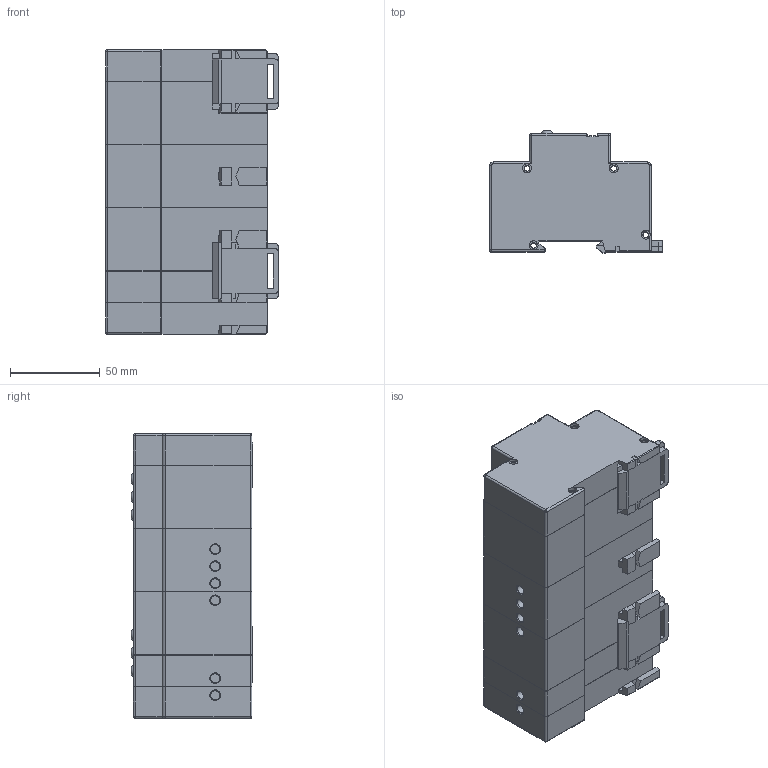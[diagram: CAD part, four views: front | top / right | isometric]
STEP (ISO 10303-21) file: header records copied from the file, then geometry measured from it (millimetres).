
FILE_DESCRIPTION(/* description */ (''),/* implementation_level */ '2;1');
FILE_NAME(/* name */ 'K:\PROJEKTY ROZPRACOVANÉ\Modely do katalogu\PI-k, PI-3k\3D - STEP\PI-3k16.stp',/* time_stamp */ '2016-10-12T13:40:33+02:00',/* author */ ('admin'),/* organization */ (''),/* preprocessor_version */ 'ST-DEVELOPER v16.1',/* originating_system */ 'Autodesk Inventor 2016',/* authorisation */ '');
FILE_SCHEMA (('AUTOMOTIVE_DESIGN { 1 0 10303 214 3 1 1 }'));
Length unit declared in the file: millimetre
Products named in the file (3): PI-3k16, 25; ISO 1207 - M2 x 3; PI-3k16, 25_1
Assembly tree (13 placements, depth 2):
  PI-3k16, 25_1
    PI-3k16, 25
    ISO 1207 - M2 x 3  x12
Bounding box: 96.3 x 67.8 x 158.4 mm (x, y, z)
Volume: 770428 mm3; surface area: 77913.3 mm2
Topology: 13 solids, 13 shells, 861 faces, 2232 edges, 1441 vertices
Faces by surface type: plane 570, cylinder 187, cone 60, torus 30, bspline 8, sphere 6
Full cylindrical faces by diameter (mm): 1.754 x12, 2 x12, 3.2 x4, 5 x32
Entity records: 21772 total; most frequent: CARTESIAN_POINT 3876, ORIENTED_EDGE 3634, DIRECTION 3626, EDGE_CURVE 1817, LINE 1426, VECTOR 1426, VERTEX_POINT 1218, AXIS2_PLACEMENT_3D 1100
